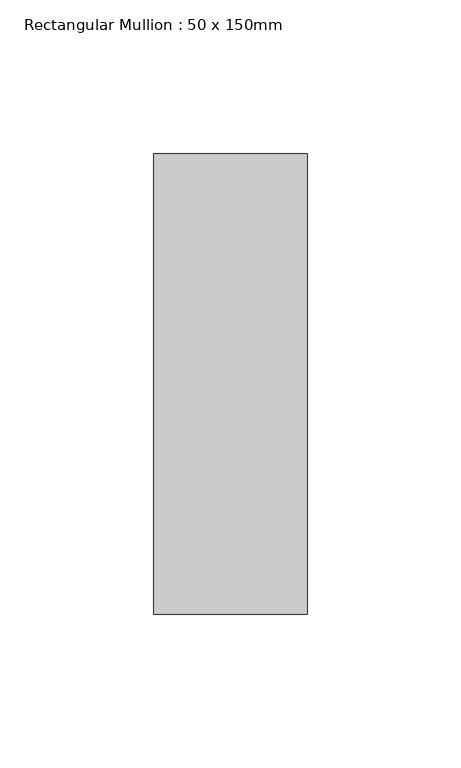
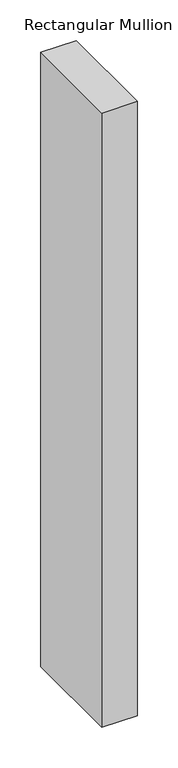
"""IFC4 building model written with IfcOpenShell, lengths in millimetres: member geometry, Rectangular Mullion : 50 x 150mm."""

import ifcopenshell
import ifcopenshell.guid

model = None  # the IFC model being written
_history = None  # IfcOwnerHistory: only IFC2X3 demands one
_inside = {}  # id of a spatial element -> (the spatial element, [elements in it])
_under = {}  # id of a project, library or spatial element -> (it, [spatial elements below it])
_declared = {}  # id of a project -> (the project, [libraries it declares])
_typed = {}  # id of a type object -> (the type object, [elements of that type])
_made_of = {}  # id of a material, layer set ... -> (it, [elements and type objects made of it])


def new_model(schema):
    """Start an empty IFC model of exactly this schema.

    Asked for "IFC4X3", IfcOpenShell would pick the latest addendum, in which some entities
    have other attributes; the version numbers below select the first issue.
    IFC2X3 requires an IfcOwnerHistory on every rooted entity: one is made here for all.
    """
    global model, _history
    if schema == "IFC4X3":
        model = ifcopenshell.file(schema_version=(4, 3, 0, 0))
    else:
        model = ifcopenshell.file(schema=schema)
    _inside.clear()
    _under.clear()
    _declared.clear()
    _typed.clear()
    _made_of.clear()
    _history = None
    if model.schema == "IFC2X3":
        org = make("IfcOrganization", Name="unknown")
        user = make(
            "IfcPersonAndOrganization",
            ThePerson=make("IfcPerson", FamilyName="unknown"),
            TheOrganization=org,
        )
        app = make(
            "IfcApplication",
            ApplicationDeveloper=org,
            Version="unknown",
            ApplicationFullName="unknown",
            ApplicationIdentifier="unknown",
        )
        _history = make(
            "IfcOwnerHistory",
            OwningUser=user,
            OwningApplication=app,
            ChangeAction="ADDED",
            CreationDate=0,
        )
    return model


def make(cls, **values):
    """One entity of the class cls with the attributes given. An attribute that is None is left unset."""
    return model.create_entity(
        cls, **{name: value for name, value in values.items() if value is not None}
    )


def rooted(cls, **values):
    """An entity with a GlobalId (a new one), such as an element, a storey or a relation."""
    return make(cls, GlobalId=ifcopenshell.guid.new(), OwnerHistory=_history, **values)


def si_unit(unit_type, name, prefix=None):
    """IfcSIUnit, for example si_unit("LENGTHUNIT", "METRE", prefix="MILLI")."""
    return make("IfcSIUnit", UnitType=unit_type, Prefix=prefix, Name=name)


def assignment(units):
    """IfcUnitAssignment: the units of a project."""
    return None if units is None else make("IfcUnitAssignment", Units=units)


def point(xyz):
    """IfcCartesianPoint."""
    return None if xyz is None else make("IfcCartesianPoint", Coordinates=xyz)


def direction(xyz):
    """IfcDirection."""
    return None if xyz is None else make("IfcDirection", DirectionRatios=xyz)


def frame(location, z_axis=None, x_axis=None):
    """IfcAxis2Placement3D, a coordinate frame: its origin and axes. An axis left out is left unset."""
    return make(
        "IfcAxis2Placement3D",
        Location=point(location),
        Axis=direction(z_axis),
        RefDirection=direction(x_axis),
    )


def origin():
    """The frame at (0, 0, 0) with its axes left unset."""
    return frame((0.0, 0.0, 0.0))


def place(relative_to, where):
    """IfcLocalPlacement: puts the frame where relative to a parent placement (None: the world)."""
    return make(
        "IfcLocalPlacement", PlacementRelTo=relative_to, RelativePlacement=where
    )


def context(
    kind, dimensions, precision=None, world=None, true_north=None, identifier=None
):
    """IfcGeometricRepresentationContext, for example the 3D "Model" context."""
    return make(
        "IfcGeometricRepresentationContext",
        ContextIdentifier=identifier,
        ContextType=kind,
        CoordinateSpaceDimension=dimensions,
        Precision=precision,
        WorldCoordinateSystem=world,
        TrueNorth=true_north,
    )


def project(units=None, contexts=None):
    """IfcProject with its units and contexts."""
    return rooted(
        "IfcProject",
        Name="project",
        RepresentationContexts=contexts,
        UnitsInContext=assignment(units),
    )


def spatial(cls, under=None, at=None, **own):
    """A site, building, storey or space (cls), placed at a placement, below another one or the project."""
    s = rooted(cls, ObjectPlacement=at, **own)
    if under is not None:
        _under.setdefault(under.id(), (under, []))[1].append(s)
    return s


def polyline(points):
    """IfcPolyline through the points."""
    return make("IfcPolyline", Points=[point(p) for p in points])


def outline(outer, holes=None, kind="AREA"):
    """IfcArbitraryClosedProfileDef: a profile drawn as a closed curve; with holes, ...WithVoids."""
    if holes is None:
        return make("IfcArbitraryClosedProfileDef", ProfileType=kind, OuterCurve=outer)
    return make(
        "IfcArbitraryProfileDefWithVoids",
        ProfileType=kind,
        OuterCurve=outer,
        InnerCurves=holes,
    )


def extrude(swept, where, along, depth):
    """IfcExtrudedAreaSolid: the profile swept, set in the frame where, extruded along a direction by depth."""
    return make(
        "IfcExtrudedAreaSolid",
        SweptArea=swept,
        Position=where,
        ExtrudedDirection=direction(along),
        Depth=depth,
    )


def shape(context_of_items, identifier, shape_type, items):
    """IfcShapeRepresentation: the items that make up one representation, for example the "Body"."""
    return make(
        "IfcShapeRepresentation",
        ContextOfItems=context_of_items,
        RepresentationIdentifier=identifier,
        RepresentationType=shape_type,
        Items=items,
    )


def source(mapping_origin, context_of_items, identifier, shape_type, items):
    """IfcRepresentationMap: a shape defined once, which mapped items show again and again."""
    return make(
        "IfcRepresentationMap",
        MappingOrigin=mapping_origin,
        MappedRepresentation=shape(context_of_items, identifier, shape_type, items),
    )


def transform(
    local_origin,
    x_axis=None,
    y_axis=None,
    z_axis=None,
    scale=None,
    scale2=None,
    scale3=None,
    uniform=True,
):
    """IfcCartesianTransformationOperator3D, or its non-uniform kind. x_axis, y_axis, z_axis: its Axis1, 2, 3."""
    if uniform:
        return make(
            "IfcCartesianTransformationOperator3D",
            Axis1=direction(x_axis),
            Axis2=direction(y_axis),
            LocalOrigin=point(local_origin),
            Scale=scale,
            Axis3=direction(z_axis),
        )
    return make(
        "IfcCartesianTransformationOperator3DnonUniform",
        Axis1=direction(x_axis),
        Axis2=direction(y_axis),
        LocalOrigin=point(local_origin),
        Scale=scale,
        Axis3=direction(z_axis),
        Scale2=scale2,
        Scale3=scale3,
    )


def mapped(mapping_source, mapping_target):
    """IfcMappedItem: shows the shape of a source again, moved by a transform."""
    return make(
        "IfcMappedItem", MappingSource=mapping_source, MappingTarget=mapping_target
    )


def made_of(thing, what):
    """Note that an element or type object is made of a material, layer set ...; save() writes the relation."""
    if what is not None:
        _made_of.setdefault(what.id(), (what, []))[1].append(thing)
    return thing


def element(
    cls,
    number,
    at=None,
    inside=None,
    cuts=None,
    type_object=None,
    material=None,
    context=None,
    identifier="Body",
    shape_type=None,
    held_by="IfcProductDefinitionShape",
    body=None,
    shapes=None,
    **own,
):
    """One element of the class cls, such as IfcWall. Its Tag is "e" and its number.

    at: its placement. inside: the storey or other place that contains it. cuts: it is an
    opening in that element (IfcRelVoidsElement). A single representation is given by context,
    identifier, shape_type and body (its items); several are given by shapes. held_by: the class
    of the entity that holds the representations. save() writes the other relations.
    """
    e = rooted(cls, Tag="e%d" % number, ObjectPlacement=at, **own)
    if body is not None:
        shapes = [shape(context, identifier, shape_type, body)]
    if shapes is not None:
        e.Representation = make(held_by, Representations=shapes)
    if inside is not None:
        _inside.setdefault(inside.id(), (inside, []))[1].append(e)
    if cuts is not None:
        rooted(
            "IfcRelVoidsElement", RelatingBuildingElement=cuts, RelatedOpeningElement=e
        )
    if type_object is not None:
        _typed.setdefault(type_object.id(), (type_object, []))[1].append(e)
    return made_of(e, material)


def aggregate(whole, parts):
    """IfcRelAggregates: a whole, such as a stair, and the parts it consists of."""
    return rooted("IfcRelAggregates", RelatingObject=whole, RelatedObjects=parts)


def save(model, path):
    """Write the relations noted so far, then the file.

    IfcRelAggregates (storeys below a building ...), IfcRelContainedInSpatialStructure (elements
    in a storey), IfcRelDefinesByType, IfcRelAssociatesMaterial and IfcRelDeclares: one each for
    every whole, place, type object, material and project.
    """
    for whole, parts in _under.values():
        aggregate(whole, parts)
    for where, things in _inside.values():
        rooted(
            "IfcRelContainedInSpatialStructure",
            RelatedElements=things,
            RelatingStructure=where,
        )
    for kind, things in _typed.values():
        rooted("IfcRelDefinesByType", RelatedObjects=things, RelatingType=kind)
    for what, things in _made_of.values():
        rooted("IfcRelAssociatesMaterial", RelatedObjects=things, RelatingMaterial=what)
    for by, libraries in _declared.values():
        rooted("IfcRelDeclares", RelatingContext=by, RelatedDefinitions=libraries)
    model.write(path)


def rectangular_mullion_50_x_150mm_801ec5af(model_context):
    return source(origin(), model_context, "Body", "SweptSolid", [
        extrude(outline(polyline([(0.0, 75.0), (0.0, -75.0), (-50.0, -75.0), (-50.0, 75.0), (0.0, 75.0)])), frame((0.0, 0.0, -920.0), z_axis=(0.0, 0.0, 1.0), x_axis=(1.0, 0.0, 0.0)), (0.0, 0.0, 1.0), 920.0),
    ])


if __name__ == "__main__":
    model = new_model("IFC4")
    model_context = context("Model", 3, world=origin())
    ifc_project = project(units=[si_unit("LENGTHUNIT", "METRE", prefix="MILLI")], contexts=[model_context])
    site = spatial("IfcSite", under=ifc_project)
    building = spatial("IfcBuilding", under=site)
    placement = place(None, origin())
    rectangular_mullion_50_x_150mm_shape = rectangular_mullion_50_x_150mm_801ec5af(model_context)
    element("IfcMember", 1, ObjectType="Rectangular Mullion : 50 x 150mm", at=placement, inside=building, context=model_context, shape_type="MappedRepresentation", body=[
        mapped(rectangular_mullion_50_x_150mm_shape, transform((0.0, 0.0, 0.0), x_axis=(1.0, 0.0, 0.0), y_axis=(0.0, 1.0, 0.0), z_axis=(0.0, 0.0, 1.0))),
    ])
    save(model, "model.ifc")
